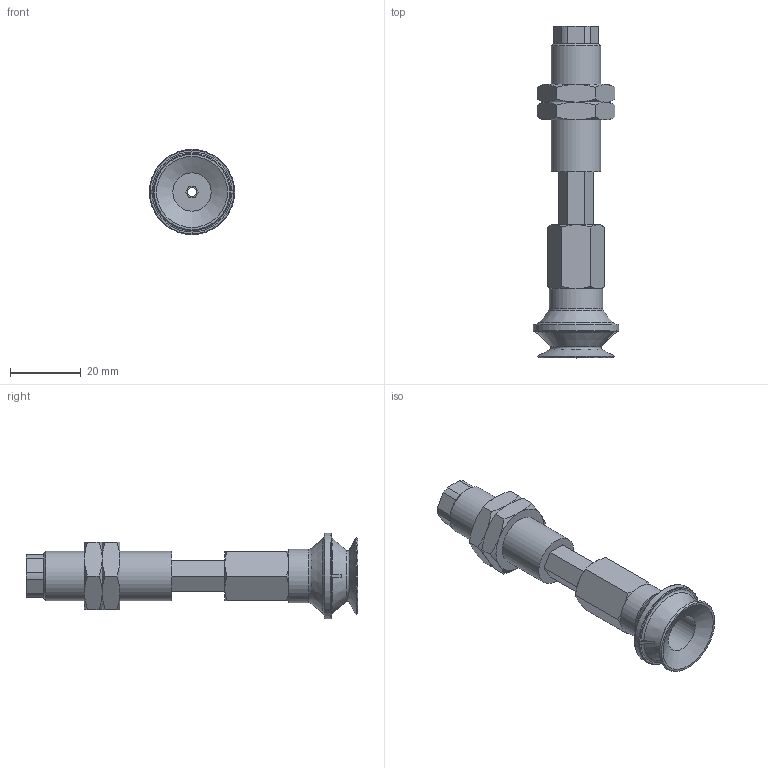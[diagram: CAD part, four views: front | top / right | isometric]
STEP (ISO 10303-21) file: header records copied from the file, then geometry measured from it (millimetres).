
FILE_DESCRIPTION(('STEP AP203'),'1');
FILE_NAME('.stp','2025-08-27T00:58:42',(' '),(' '),'Spatial InterOp 3D',' ',' ');
FILE_SCHEMA(('CONFIG_CONTROL_DESIGN'));
Length unit declared in the file: millimetre
Products named in the file (7): BNABPBTH-20-15-※; ADAPTER; NAPBTH-20-15-MBODY; Adapter20-T-NAPB; Nut-20-S-PB; NAPBTH-20-15-FBODY; BPBG-20-※
Assembly tree (7 placements, depth 2):
  BNABPBTH-20-15-※
    ADAPTER
    NAPBTH-20-15-MBODY
    Adapter20-T-NAPB
    Nut-20-S-PB  x2
    NAPBTH-20-15-FBODY
    BPBG-20-※
Bounding box: 24 x 93.5 x 24 mm (x, y, z)
Volume: 14813.2 mm3; surface area: 11364.8 mm2
Topology: 7 solids, 7 shells, 149 faces, 332 edges, 204 vertices
Faces by surface type: plane 69, cone 51, cylinder 20, torus 9
Full cylindrical faces by diameter (mm): 2.5 x1, 3 x2, 4.134 x2, 4.6 x1, 5 x1, 10.8 x1, 11 x1, 12.917 x2, 14 x1, 15 x1, 24 x1
Entity records: 3862 total; most frequent: CARTESIAN_POINT 880, DIRECTION 556, ORIENTED_EDGE 486, EDGE_CURVE 243, AXIS2_PLACEMENT_3D 227, EDGE_LOOP 176, VERTEX_POINT 167, FACE_OUTER_BOUND 146
